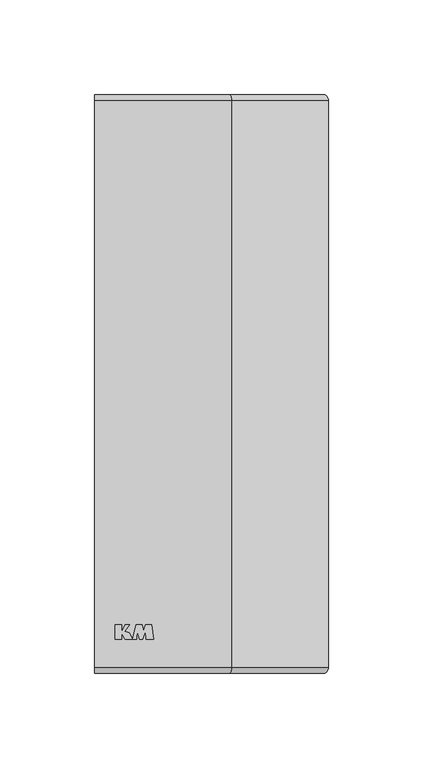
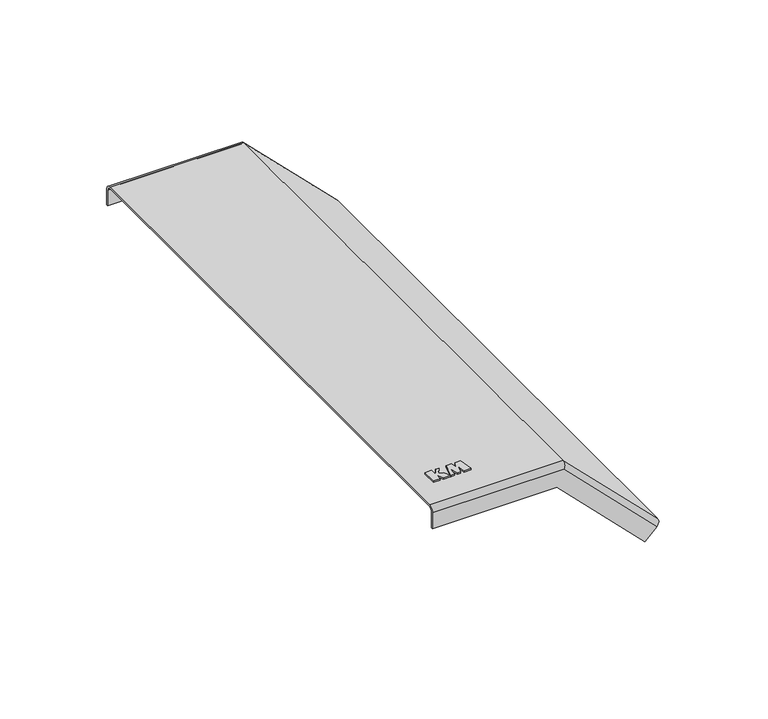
"""IFC4 building model written with IfcOpenShell, lengths in millimetres: cable carrier fitting geometry, КМ Профиль Крышка внешнего вертикального угла KVL45 : Крышка вертикального внешнего угла 45°."""

from ifc_helpers import new_model, si_unit, frame, origin, place, context, project, spatial, polyline, circle_curve, ellipse_curve, outline, extrude, source, transform, mapped, element, save
from ifc_brep_helpers import plane_surface, cylinder_surface, revolved_surface, advanced_brep


def cable_carrier_fitting_ef3c5f1c(model_context):
    return source(origin(), model_context, "Body", "SolidModel", [
        extrude(outline(polyline([(10.7611219, -126.986157), (14.2683808, -126.986157), (14.2683808, -130.564509), (16.1710243, -126.986157), (18.296989, -126.986157), (15.8305045, -130.5086619), (18.0722556, -131.194034), (19.9395647, -134.737421), (16.0411533, -134.737421), (14.3369488, -131.5720802), (14.3369488, -134.737421), (10.7611219, -134.737421), (10.7611219, -126.986157)])), frame((0.0, 0.0, 3.0), z_axis=(0.0, 0.0, 1.0), x_axis=(1.0, 0.0, 0.0)), (0.0, 0.0, 1.0), 0.8),
        extrude(outline(polyline([(22.0037241, -134.737421), (20.1056605, -134.737421), (21.9259411, -126.9647569), (24.9566696, -126.9647569), (25.7231703, -130.0390232), (26.7444777, -126.9623682), (29.9384326, -126.9623682), (31.1299301, -134.7429915), (27.2274895, -134.7429915), (26.7499968, -130.0541919), (25.2699283, -134.7434681), (23.7954176, -134.7434681), (22.3873988, -130.0696135), (22.0037241, -134.737421)])), frame((0.0, 0.0, 3.0), z_axis=(0.0, 0.0, 1.0), x_axis=(1.0, 0.0, 0.0)), (0.0, 0.0, 1.0), 0.8),
        advanced_brep(
        [(0.0, -149.5, 3.0), (0.0, 149.5, 3.0), (0.0, 152.5, 0.0), (0.0, 152.5, -9.0), (0.0, 151.5, -9.0), (0.0, 151.5, 0.0), (0.0, 149.5, 2.0), (0.0, -149.5, 2.0), (0.0, -151.5, 0.0), (0.0, -151.5, -9.0), (0.0, -152.5, -9.0), (0.0, -152.5, 0.0), (72.2426407, -149.5, 3.0), (72.2426407, 149.5, 3.0), (71.0, 152.5, 0.0), (121.2045815, 152.5, -50.2045815), (114.8406204, 152.5, -56.5685425), (67.2720779, 152.5, -9.0), (67.2720779, 151.5, -9.0), (114.8406204, 151.5, -56.5685425), (121.2045815, 151.5, -50.2045815), (71.0, 151.5, 0.0), (71.8284271, 149.5, 2.0), (71.8284271, -149.5, 2.0), (71.0, -151.5, 0.0), (121.2045815, -151.5, -50.2045815), (114.8406204, -151.5, -56.5685425), (67.2720779, -151.5, -9.0), (67.2720779, -152.5, -9.0), (114.8406204, -152.5, -56.5685425), (121.2045815, -152.5, -50.2045815), (71.0, -152.5, 0.0), (123.3259018, -149.5, -48.0832611), (122.618795, -149.5, -48.7903679), (122.618795, 149.5, -48.7903679), (123.3259018, 149.5, -48.0832611)],
        [
            (0, 1),
            (1, 2, circle_curve(frame((0.0, 149.5, 0.0), z_axis=(-1.0, 0.0, 0.0), x_axis=(0.0, 0.0, 1.0)), 3.0)),
            (2, 3),
            (3, 4),
            (4, 5),
            (5, 6, circle_curve(frame((0.0, 149.5, 0.0), z_axis=(1.0, 0.0, 0.0), x_axis=(0.0, 0.0, 1.0)), 2.0)),
            (6, 7),
            (7, 8, circle_curve(frame((0.0, -149.5, 0.0), z_axis=(1.0, 0.0, 0.0), x_axis=(0.0, 0.0, 1.0)), 2.0)),
            (8, 9),
            (9, 10),
            (10, 11),
            (11, 0, circle_curve(frame((0.0, -149.5, 0.0), z_axis=(-1.0, 0.0, 0.0), x_axis=(0.0, 0.0, 1.0)), 3.0)),
            (0, 12),
            (12, 13),
            (13, 1),
            (13, 14, ellipse_curve(frame((71.0, 149.5, 0.0), z_axis=(-0.9238795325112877, 0.0, 0.38268343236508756), x_axis=(-0.38268343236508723, 0.0, -0.923879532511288)), 3.2471766, 3.0)),
            (14, 2),
            (14, 15),
            (15, 16),
            (16, 17),
            (17, 3),
            (17, 18),
            (18, 4),
            (18, 19),
            (19, 20),
            (20, 21),
            (21, 5),
            (21, 22, ellipse_curve(frame((71.0, 149.5, 0.0), z_axis=(0.9238795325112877, 0.0, -0.38268343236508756), x_axis=(0.38268343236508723, 0.0, 0.923879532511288)), 2.1647844, 2.0)),
            (22, 6),
            (22, 23),
            (23, 7),
            (23, 24, ellipse_curve(frame((71.0, -149.5, 0.0), z_axis=(0.9238795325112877, 0.0, -0.38268343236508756), x_axis=(0.38268343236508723, 0.0, 0.923879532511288)), 2.1647844, 2.0)),
            (24, 8),
            (24, 25),
            (25, 26),
            (26, 27),
            (27, 9),
            (27, 28),
            (28, 10),
            (28, 29),
            (29, 30),
            (30, 31),
            (31, 11),
            (31, 12, ellipse_curve(frame((71.0, -149.5, 0.0), z_axis=(-0.9238795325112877, 0.0, 0.38268343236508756), x_axis=(-0.38268343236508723, 0.0, -0.923879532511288)), 3.2471766, 3.0)),
            (32, 30, circle_curve(frame((121.2045815, -149.5, -50.2045815), z_axis=(0.7071067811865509, 0.0, -0.7071067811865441), x_axis=(0.7071067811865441, 0.0, 0.7071067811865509)), 3.0)),
            (29, 26),
            (25, 33, circle_curve(frame((121.2045815, -149.5, -50.2045815), z_axis=(-0.7071067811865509, 0.0, 0.7071067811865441), x_axis=(0.7071067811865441, 0.0, 0.7071067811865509)), 2.0)),
            (33, 34),
            (34, 20, circle_curve(frame((121.2045815, 149.5, -50.2045815), z_axis=(-0.7071067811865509, 0.0, 0.7071067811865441), x_axis=(0.7071067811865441, 0.0, 0.7071067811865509)), 2.0)),
            (19, 16),
            (15, 35, circle_curve(frame((121.2045815, 149.5, -50.2045815), z_axis=(0.7071067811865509, 0.0, -0.7071067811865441), x_axis=(0.7071067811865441, 0.0, 0.7071067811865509)), 3.0)),
            (35, 32),
            (12, 32),
            (35, 13),
            (34, 22),
            (33, 23),
        ],
        [
            plane_surface(frame((0.0, 0.0, 0.0), z_axis=(-1.0, 0.0, 0.0), x_axis=(0.0, -1.0, 0.0))),
            plane_surface(frame((0.0, -149.5, 3.0), z_axis=(0.0, 0.0, 1.0), x_axis=(1.0, 0.0, 0.0))),
            cylinder_surface(frame((0.0, 149.5, 0.0), z_axis=(-1.0, 0.0, 0.0), x_axis=(0.0, 0.0, 1.0)), 3.0),
            plane_surface(frame((0.0, 152.5, 0.0), z_axis=(0.0, 1.0, 0.0), x_axis=(1.0, 0.0, 0.0))),
            plane_surface(frame((0.0, 152.5, -9.0), z_axis=(0.0, 0.0, -1.0), x_axis=(1.0, 0.0, 0.0))),
            plane_surface(frame((0.0, 151.5, -9.0), z_axis=(0.0, -1.0, 0.0), x_axis=(1.0, 0.0, 0.0))),
            revolved_surface(polyline([(71.82842712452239, 149.5, 2.0), (0.0, 149.5, 2.0)]), (0.0, 149.5, 0.0), (1.0, 0.0, 0.0)),
            plane_surface(frame((0.0, 149.5, 2.0), z_axis=(0.0, 0.0, -1.0), x_axis=(1.0, 0.0, 0.0))),
            revolved_surface(polyline([(71.82842712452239, -149.5, 2.0), (0.0, -149.5, 2.0)]), (0.0, -149.5, 0.0), (1.0, 0.0, 0.0)),
            plane_surface(frame((0.0, -151.5, 0.0), z_axis=(0.0, 1.0, 0.0), x_axis=(1.0, 0.0, 0.0))),
            plane_surface(frame((0.0, -151.5, -9.0), z_axis=(0.0, 0.0, -1.0), x_axis=(1.0, 0.0, 0.0))),
            plane_surface(frame((0.0, -152.5, -9.0), z_axis=(0.0, -1.0, 0.0), x_axis=(1.0, 0.0, 0.0))),
            cylinder_surface(frame((0.0, -149.5, 0.0), z_axis=(-1.0, 0.0, 0.0), x_axis=(0.0, 0.0, 1.0)), 3.0),
            plane_surface(frame((121.2045815, 0.0, -50.2045815), z_axis=(0.7071067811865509, 0.0, -0.7071067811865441), x_axis=(0.0, -1.0, 0.0))),
            plane_surface(frame((72.2426407, -149.5, 3.0), z_axis=(0.7071067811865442, 0.0, 0.7071067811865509), x_axis=(0.7071067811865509, 0.0, -0.7071067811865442))),
            cylinder_surface(frame((71.0, 149.5, 0.0), z_axis=(-0.7071067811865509, 0.0, 0.7071067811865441), x_axis=(0.7071067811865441, 0.0, 0.7071067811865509)), 3.0),
            plane_surface(frame((67.2720779, 152.5, -9.0), z_axis=(-0.7071067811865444, 0.0, -0.7071067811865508), x_axis=(0.7071067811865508, 0.0, -0.7071067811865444))),
            revolved_surface(polyline([(122.61879506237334, 149.5, -48.79036793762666), (71.82842711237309, 149.5, 2.0000000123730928)]), (71.0, 149.5, 0.0), (0.7071067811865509, 0.0, -0.7071067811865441)),
            plane_surface(frame((71.8284271, 149.5, 2.0), z_axis=(-0.707106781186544, 0.0, -0.707106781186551), x_axis=(0.707106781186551, 0.0, -0.707106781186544))),
            revolved_surface(polyline([(122.61879506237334, -149.5, -48.79036793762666), (71.82842711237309, -149.5, 2.0000000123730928)]), (71.0, -149.5, 0.0), (0.7071067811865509, 0.0, -0.7071067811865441)),
            plane_surface(frame((67.2720779, -151.5, -9.0), z_axis=(-0.7071067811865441, 0.0, -0.707106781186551), x_axis=(0.707106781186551, 0.0, -0.7071067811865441))),
            cylinder_surface(frame((71.0, -149.5, 0.0), z_axis=(-0.7071067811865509, 0.0, 0.7071067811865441), x_axis=(0.7071067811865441, 0.0, 0.7071067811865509)), 3.0),
        ],
        [
            (0, [[1, 2, 3, 4, 5, 6, 7, 8, 9, 10, 11, 12]]),
            (1, [[-1, 13, 14, 15]]),
            (2, [[-2, -15, 16, 17]]),
            (3, [[-3, -17, 18, 19, 20, 21]]),
            (4, [[-4, -21, 22, 23]]),
            (5, [[-5, -23, 24, 25, 26, 27]]),
            (6, [[-6, -27, 28, 29]]),
            (7, [[-7, -29, 30, 31]]),
            (8, [[-8, -31, 32, 33]]),
            (9, [[-9, -33, 34, 35, 36, 37]]),
            (10, [[-10, -37, 38, 39]]),
            (11, [[-11, -39, 40, 41, 42, 43]]),
            (12, [[-12, -43, 44, -13]]),
            (13, [[45, -41, 46, -35, 47, 48, 49, -25, 50, -19, 51, 52]]),
            (14, [[-14, 53, -52, 54]]),
            (15, [[-16, -54, -51, -18]]),
            (16, [[-22, -20, -50, -24]]),
            (17, [[-28, -26, -49, 55]]),
            (18, [[-30, -55, -48, 56]]),
            (19, [[-32, -56, -47, -34]]),
            (20, [[-38, -36, -46, -40]]),
            (21, [[-44, -42, -45, -53]]),
        ],
    ),
    ])


if __name__ == "__main__":
    model = new_model("IFC4")
    model_context = context("Model", 3, world=origin())
    ifc_project = project(units=[si_unit("LENGTHUNIT", "METRE", prefix="MILLI")], contexts=[model_context])
    site = spatial("IfcSite", under=ifc_project)
    building = spatial("IfcBuilding", under=site)
    placement = place(None, origin())
    cable_carrier_fitting_shape = cable_carrier_fitting_ef3c5f1c(model_context)
    element("IfcCableCarrierFitting", 1, ObjectType="КМ Профиль Крышка внешнего вертикального угла KVL45 : Крышка вертикального внешнего угла 45°", at=placement, inside=building, context=model_context, shape_type="MappedRepresentation", body=[
        mapped(cable_carrier_fitting_shape, transform((0.0, 0.0, 0.0), x_axis=(1.0, 0.0, 0.0), y_axis=(0.0, 1.0, 0.0), z_axis=(0.0, 0.0, 1.0))),
    ])
    save(model, "model.ifc")
